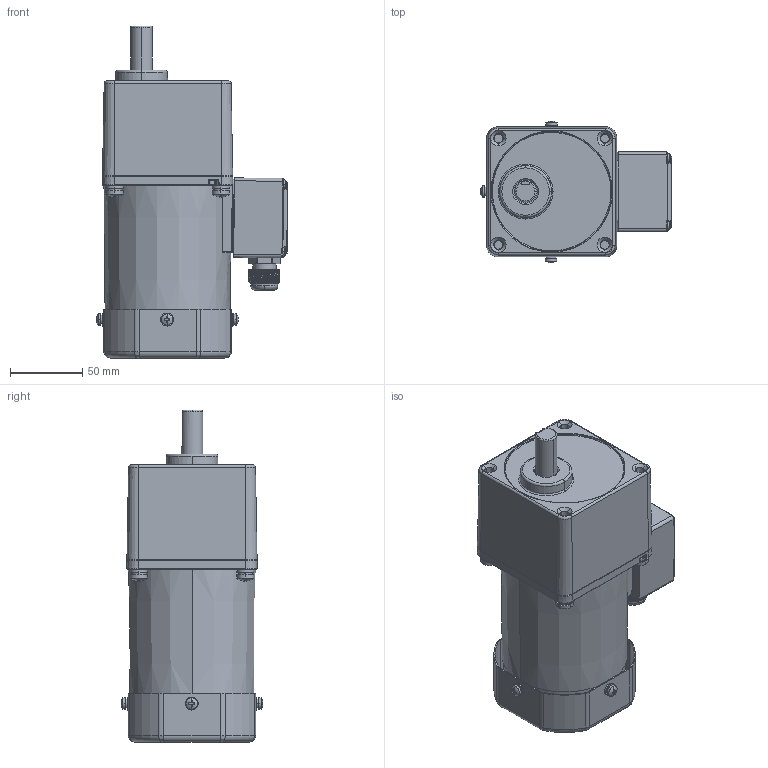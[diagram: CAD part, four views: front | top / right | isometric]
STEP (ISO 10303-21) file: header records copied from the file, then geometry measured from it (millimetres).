
FILE_DESCRIPTION (( 'STEP AP203' ), '1' );
FILE_NAME ('5RK60GU-CFT(5GU3KB-200KB).STEP', '2023-08-08T06:14:46', ( 'Windows User' ), ( 'P R C' ), 'SwSTEP 2.0', 'SolidWorks 2019', '' );
FILE_SCHEMA (( 'CONFIG_CONTROL_DESIGN' ));
Length unit declared in the file: millimetre
Products named in the file (16): ^___5RK60GU-CFT(5GU3KB-200KB)(2)_5RK60GU-CFT(5GU3KB-200KB); 葩璃 (2) ^_____5RK60GU-CFT(5GU3KB-200KB)(2)_5RK60GU-CFT(5GU3KB-200KB); 葩璃 (3) ^_____5RK60GU-CFT(5GU3KB-200KB)(2)_5RK60GU-CFT(5GU3KB-200KB); ^__5RK60GU-CFT(5GU3KB-200KB)(2)_5RK60GU-CFT(5GU3KB-200KB); 5RK60GU-CFT(5GU3KB-200KB)(2)^5RK60GU-CFT(5GU3KB-200KB); 葩璃 (4) ^_____5RK60GU-CFT(5GU3KB-200KB)(2)_5RK60GU-CFT(5GU3KB-200KB); 5GU3KB-200KB^5RK60GU-CFT(5GU3KB-200KB)(2)_5RK60GU-CFT(5GU3KB-200KB); 葩璃 (5) ^_____5RK60GU-CFT(5GU3KB-200KB)(2)_5RK60GU-CFT(5GU3KB-200KB); 5RK60GU-CFT(5GU3KB-200KB); 葩璃 (6) ^_____5RK60GU-CFT(5GU3KB-200KB)(2)_5RK60GU-CFT(5GU3KB-200KB); ^____5RK60GU-CFT(5GU3KB-200KB)(2)_5RK60GU-CFT(5GU3KB-200KB); ^_5RK60GU-CFT(5GU3KB-200KB)(2)_5RK60GU-CFT(5GU3KB-200KB); ^5RK60GU-CFT(5GU3KB-200KB)(2)_5RK60GU-CFT(5GU3KB-200KB); ^_____5RK60GU-CFT(5GU3KB-200KB)(2)_5RK60GU-CFT(5GU3KB-200KB)
Assembly tree (15 placements, depth 8):
  5RK60GU-CFT(5GU3KB-200KB)
    5RK60GU-CFT(5GU3KB-200KB)(2)^5RK60GU-CFT(5GU3KB-200KB)
      ^5RK60GU-CFT(5GU3KB-200KB)(2)_5RK60GU-CFT(5GU3KB-200KB)
        ^_5RK60GU-CFT(5GU3KB-200KB)(2)_5RK60GU-CFT(5GU3KB-200KB)
          ^__5RK60GU-CFT(5GU3KB-200KB)(2)_5RK60GU-CFT(5GU3KB-200KB)
            ^___5RK60GU-CFT(5GU3KB-200KB)(2)_5RK60GU-CFT(5GU3KB-200KB)
              ^____5RK60GU-CFT(5GU3KB-200KB)(2)_5RK60GU-CFT(5GU3KB-200KB)
                ^_____5RK60GU-CFT(5GU3KB-200KB)(2)_5RK60GU-CFT(5GU3KB-200KB)
                葩璃 (2) ^_____5RK60GU-CFT(5GU3KB-200KB)(2)_5RK60GU-CFT(5GU3KB-200KB)
                葩璃 (3) ^_____5RK60GU-CFT(5GU3KB-200KB)(2)_5RK60GU-CFT(5GU3KB-200KB)
                葩璃 (4) ^_____5RK60GU-CFT(5GU3KB-200KB)(2)_5RK60GU-CFT(5GU3KB-200KB)
                葩璃 (5) ^_____5RK60GU-CFT(5GU3KB-200KB)(2)_5RK60GU-CFT(5GU3KB-200KB)
                葩璃 (6) ^_____5RK60GU-CFT(5GU3KB-200KB)(2)_5RK60GU-CFT(5GU3KB-200KB)
            ^___5RK60GU-CFT(5GU3KB-200KB)(2)_5RK60GU-CFT(5GU3KB-200KB)
          ^__5RK60GU-CFT(5GU3KB-200KB)(2)_5RK60GU-CFT(5GU3KB-200KB)
      5GU3KB-200KB^5RK60GU-CFT(5GU3KB-200KB)(2)_5RK60GU-CFT(5GU3KB-200KB)
Bounding box: 132.2 x 98.11 x 229.5 mm (x, y, z)
Volume: 1282493 mm3; surface area: 153323.5 mm2
Topology: 36 solids, 36 shells, 1797 faces, 4626 edges, 2909 vertices
Faces by surface type: cylinder 712, plane 473, cone 369, torus 109, sphere 72, bspline 62
Entity records: 62310 total; most frequent: CARTESIAN_POINT 16277, DIRECTION 9943, ORIENTED_EDGE 9152, EDGE_CURVE 4576, AXIS2_PLACEMENT_3D 4107, VERTEX_POINT 2905, CIRCLE 2348, EDGE_LOOP 1919
